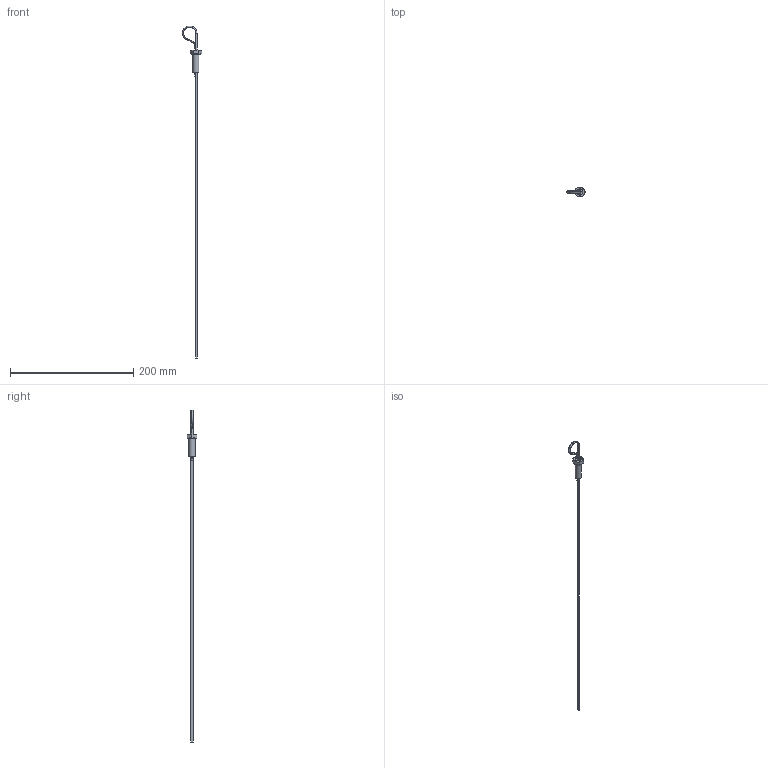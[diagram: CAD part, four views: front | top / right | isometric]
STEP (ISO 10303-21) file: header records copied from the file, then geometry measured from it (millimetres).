
FILE_DESCRIPTION((''),'2;1');
FILE_NAME('U:\Users\a.heinl\12172700.stp','2013-05-22T15:20:11',( 'User'),('SDRC'),'I-DEAS Master Series 9','UNIX','Yes');
FILE_SCHEMA(('AUTOMOTIVE_DESIGN { 1 0 10303 214 1 1 1 1 }'));
Length unit declared in the file: millimetre
Products named in the file (1): 12172700(319149)
Bounding box: 31.09 x 16.02 x 539.48 mm (x, y, z)
Volume: 6850.3 mm3; surface area: 7123.6 mm2
Topology: 1 solids, 1 shells, 47 faces, 113 edges, 79 vertices
Faces by surface type: bspline 47
Entity records: 1557 total; most frequent: CARTESIAN_POINT 873, ORIENTED_EDGE 208, EDGE_CURVE 104, VERTEX_POINT 64, EDGE_LOOP 54, FACE_OUTER_BOUND 47, ADVANCED_FACE 47, QUASI_UNIFORM_CURVE 29
